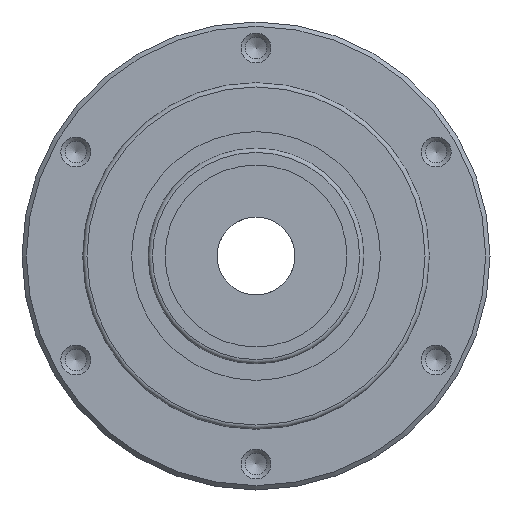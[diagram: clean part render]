
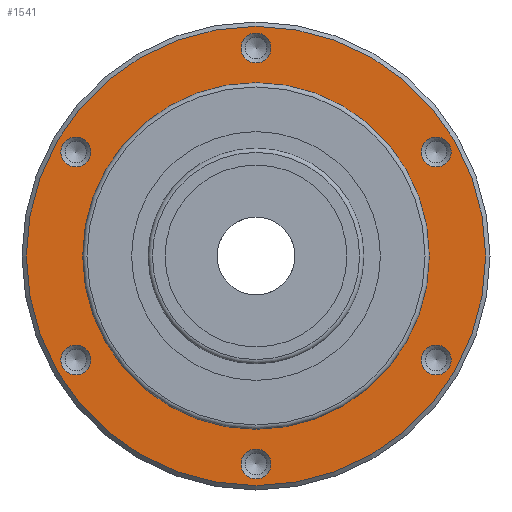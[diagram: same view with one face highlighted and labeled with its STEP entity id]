
A CAD part, left-side view. The second image highlights one B-rep face of the part: STEP entity #1541.
In plain terms, the highlighted planar face has unit normal (-1, 0, 0).
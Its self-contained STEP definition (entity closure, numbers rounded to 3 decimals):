
#77=PLANE('',#1656);
#156=CIRCLE('',#1655,40.);
#157=CIRCLE('',#1657,3.459);
#158=CIRCLE('',#1658,3.459);
#159=CIRCLE('',#1659,3.459);
#160=CIRCLE('',#1660,3.459);
#161=CIRCLE('',#1661,3.459);
#162=CIRCLE('',#1662,3.459);
#163=CIRCLE('',#1663,53.);
#249=ORIENTED_EDGE('',*,*,#460,.T.);
#250=ORIENTED_EDGE('',*,*,#461,.T.);
#251=ORIENTED_EDGE('',*,*,#462,.T.);
#252=ORIENTED_EDGE('',*,*,#463,.T.);
#253=ORIENTED_EDGE('',*,*,#464,.T.);
#254=ORIENTED_EDGE('',*,*,#465,.T.);
#255=ORIENTED_EDGE('',*,*,#466,.T.);
#256=ORIENTED_EDGE('',*,*,#459,.F.);
#459=EDGE_CURVE('',#565,#565,#156,.T.);
#460=EDGE_CURVE('',#566,#566,#157,.T.);
#461=EDGE_CURVE('',#567,#567,#158,.T.);
#462=EDGE_CURVE('',#568,#568,#159,.T.);
#463=EDGE_CURVE('',#569,#569,#160,.T.);
#464=EDGE_CURVE('',#570,#570,#161,.T.);
#465=EDGE_CURVE('',#571,#571,#162,.T.);
#466=EDGE_CURVE('',#572,#572,#163,.T.);
#565=VERTEX_POINT('',#2248);
#566=VERTEX_POINT('',#2251);
#567=VERTEX_POINT('',#2253);
#568=VERTEX_POINT('',#2255);
#569=VERTEX_POINT('',#2257);
#570=VERTEX_POINT('',#2259);
#571=VERTEX_POINT('',#2261);
#572=VERTEX_POINT('',#2263);
#673=EDGE_LOOP('',(#249));
#674=EDGE_LOOP('',(#250));
#675=EDGE_LOOP('',(#251));
#676=EDGE_LOOP('',(#252));
#677=EDGE_LOOP('',(#253));
#678=EDGE_LOOP('',(#254));
#679=EDGE_LOOP('',(#255));
#680=EDGE_LOOP('',(#256));
#816=FACE_BOUND('',#673,.T.);
#817=FACE_BOUND('',#674,.T.);
#818=FACE_BOUND('',#675,.T.);
#819=FACE_BOUND('',#676,.T.);
#820=FACE_BOUND('',#677,.T.);
#821=FACE_BOUND('',#678,.T.);
#822=FACE_BOUND('',#679,.T.);
#823=FACE_BOUND('',#680,.T.);
#1541=ADVANCED_FACE('',(#816,#817,#818,#819,#820,#821,#822,#823),#77,.T.);
#1655=AXIS2_PLACEMENT_3D('',#2247,#1854,#1855);
#1656=AXIS2_PLACEMENT_3D('',#2249,#1856,#1857);
#1657=AXIS2_PLACEMENT_3D('',#2250,#1858,#1859);
#1658=AXIS2_PLACEMENT_3D('',#2252,#1860,#1861);
#1659=AXIS2_PLACEMENT_3D('',#2254,#1862,#1863);
#1660=AXIS2_PLACEMENT_3D('',#2256,#1864,#1865);
#1661=AXIS2_PLACEMENT_3D('',#2258,#1866,#1867);
#1662=AXIS2_PLACEMENT_3D('',#2260,#1868,#1869);
#1663=AXIS2_PLACEMENT_3D('',#2262,#1870,#1871);
#1854=DIRECTION('',(-1.,0.,0.));
#1855=DIRECTION('',(0.,0.,1.));
#1856=DIRECTION('',(-1.,0.,0.));
#1857=DIRECTION('',(0.,0.,1.));
#1858=DIRECTION('',(1.,0.,0.));
#1859=DIRECTION('',(0.,-0.5,0.866));
#1860=DIRECTION('',(1.,0.,0.));
#1861=DIRECTION('',(0.,0.5,0.866));
#1862=DIRECTION('',(1.,0.,0.));
#1863=DIRECTION('',(0.,1.,0.));
#1864=DIRECTION('',(1.,0.,0.));
#1865=DIRECTION('',(0.,0.5,-0.866));
#1866=DIRECTION('',(1.,0.,0.));
#1867=DIRECTION('',(0.,-0.5,-0.866));
#1868=DIRECTION('',(1.,0.,0.));
#1869=DIRECTION('',(0.,-1.,0.));
#1870=DIRECTION('',(-1.,0.,0.));
#1871=DIRECTION('',(0.,0.,1.));
#2247=CARTESIAN_POINT('',(12.167,0.,0.));
#2248=CARTESIAN_POINT('',(12.167,0.,40.));
#2249=CARTESIAN_POINT('',(12.167,0.,40.));
#2250=CARTESIAN_POINT('',(12.167,41.569,24.));
#2251=CARTESIAN_POINT('',(12.167,39.84,26.995));
#2252=CARTESIAN_POINT('',(12.167,41.569,-24.));
#2253=CARTESIAN_POINT('',(12.167,43.298,-21.005));
#2254=CARTESIAN_POINT('',(12.167,0.,-48.));
#2255=CARTESIAN_POINT('',(12.167,3.459,-48.));
#2256=CARTESIAN_POINT('',(12.167,-41.569,-24.));
#2257=CARTESIAN_POINT('',(12.167,-39.84,-26.995));
#2258=CARTESIAN_POINT('',(12.167,-41.569,24.));
#2259=CARTESIAN_POINT('',(12.167,-43.298,21.005));
#2260=CARTESIAN_POINT('',(12.167,0.,48.));
#2261=CARTESIAN_POINT('',(12.167,-3.459,48.));
#2262=CARTESIAN_POINT('',(12.167,0.,0.));
#2263=CARTESIAN_POINT('',(12.167,0.,53.));
